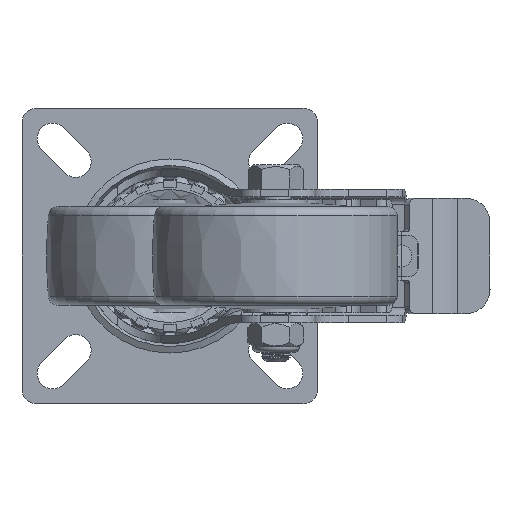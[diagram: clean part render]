
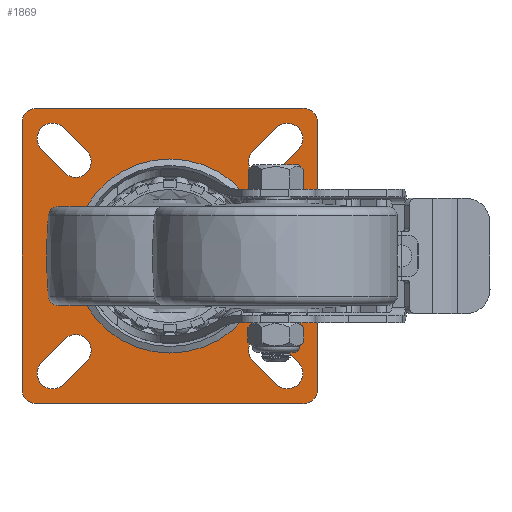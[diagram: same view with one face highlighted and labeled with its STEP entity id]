
A CAD part, front view. The second image highlights one B-rep face of the part: STEP entity #1869.
In plain terms, the highlighted planar face has unit normal (0, -1, 0).
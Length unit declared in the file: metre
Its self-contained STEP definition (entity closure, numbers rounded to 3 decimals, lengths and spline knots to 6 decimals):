
#1869=ADVANCED_FACE('',(#4483,#4484,#4485,#4486,#4487,#4488),#4489,.F.);
#4483=FACE_OUTER_BOUND('',#9127,.T.);
#4484=FACE_BOUND('',#9128,.T.);
#4485=FACE_BOUND('',#9129,.T.);
#4486=FACE_BOUND('',#9130,.T.);
#4487=FACE_BOUND('',#9131,.T.);
#4488=FACE_BOUND('',#9132,.T.);
#4489=PLANE('',#9133);
#9127=EDGE_LOOP('',(#19435,#19436,#19437,#19438,#19439,#19440,#19441,#19442));
#9128=EDGE_LOOP('',(#19443));
#9129=EDGE_LOOP('',(#19444,#19445,#19446,#19447));
#9130=EDGE_LOOP('',(#19448,#19449,#19450,#19451));
#9131=EDGE_LOOP('',(#19452,#19453,#19454,#19455));
#9132=EDGE_LOOP('',(#19456,#19457,#19458,#19459));
#9133=AXIS2_PLACEMENT_3D('',#19460,#19461,#19462);
#19435=ORIENTED_EDGE('',*,*,#24903,.F.);
#19436=ORIENTED_EDGE('',*,*,#24904,.T.);
#19437=ORIENTED_EDGE('',*,*,#24905,.F.);
#19438=ORIENTED_EDGE('',*,*,#24906,.T.);
#19439=ORIENTED_EDGE('',*,*,#24907,.F.);
#19440=ORIENTED_EDGE('',*,*,#24908,.T.);
#19441=ORIENTED_EDGE('',*,*,#24909,.F.);
#19442=ORIENTED_EDGE('',*,*,#24910,.T.);
#19443=ORIENTED_EDGE('',*,*,#24911,.F.);
#19444=ORIENTED_EDGE('',*,*,#24912,.T.);
#19445=ORIENTED_EDGE('',*,*,#24913,.T.);
#19446=ORIENTED_EDGE('',*,*,#24914,.T.);
#19447=ORIENTED_EDGE('',*,*,#24915,.T.);
#19448=ORIENTED_EDGE('',*,*,#24916,.T.);
#19449=ORIENTED_EDGE('',*,*,#24917,.T.);
#19450=ORIENTED_EDGE('',*,*,#24918,.T.);
#19451=ORIENTED_EDGE('',*,*,#24919,.T.);
#19452=ORIENTED_EDGE('',*,*,#24920,.T.);
#19453=ORIENTED_EDGE('',*,*,#24921,.T.);
#19454=ORIENTED_EDGE('',*,*,#24922,.T.);
#19455=ORIENTED_EDGE('',*,*,#24923,.T.);
#19456=ORIENTED_EDGE('',*,*,#24924,.T.);
#19457=ORIENTED_EDGE('',*,*,#24925,.T.);
#19458=ORIENTED_EDGE('',*,*,#24926,.T.);
#19459=ORIENTED_EDGE('',*,*,#24927,.T.);
#19460=CARTESIAN_POINT('',(0.0,0.0,0.0));
#19461=DIRECTION('',(-0.0,1.0,0.0));
#19462=DIRECTION('',(1.0,0.0,0.0));
#24903=EDGE_CURVE('',#30775,#30776,#30777,.T.);
#24904=EDGE_CURVE('',#30775,#30778,#30779,.T.);
#24905=EDGE_CURVE('',#30780,#30778,#30781,.T.);
#24906=EDGE_CURVE('',#30780,#30782,#30783,.T.);
#24907=EDGE_CURVE('',#30784,#30782,#30785,.T.);
#24908=EDGE_CURVE('',#30784,#30786,#30787,.T.);
#24909=EDGE_CURVE('',#30788,#30786,#30789,.T.);
#24910=EDGE_CURVE('',#30788,#30776,#30790,.T.);
#24911=EDGE_CURVE('',#30791,#30791,#30792,.T.);
#24912=EDGE_CURVE('',#30793,#30794,#30795,.T.);
#24913=EDGE_CURVE('',#30794,#30796,#30797,.T.);
#24914=EDGE_CURVE('',#30796,#30798,#30799,.T.);
#24915=EDGE_CURVE('',#30798,#30793,#30800,.T.);
#24916=EDGE_CURVE('',#30801,#30802,#30803,.T.);
#24917=EDGE_CURVE('',#30802,#30804,#30805,.T.);
#24918=EDGE_CURVE('',#30804,#30806,#30807,.T.);
#24919=EDGE_CURVE('',#30806,#30801,#30808,.T.);
#24920=EDGE_CURVE('',#30809,#30810,#30811,.T.);
#24921=EDGE_CURVE('',#30810,#30812,#30813,.T.);
#24922=EDGE_CURVE('',#30812,#30814,#30815,.T.);
#24923=EDGE_CURVE('',#30814,#30809,#30816,.T.);
#24924=EDGE_CURVE('',#30817,#30818,#30819,.T.);
#24925=EDGE_CURVE('',#30818,#30820,#30821,.T.);
#24926=EDGE_CURVE('',#30820,#30822,#30823,.T.);
#24927=EDGE_CURVE('',#30822,#30817,#30824,.T.);
#30775=VERTEX_POINT('',#42857);
#30776=VERTEX_POINT('',#42858);
#30777=LINE('',#42859,#42860);
#30778=VERTEX_POINT('',#42861);
#30779=CIRCLE('',#42862,0.003);
#30780=VERTEX_POINT('',#42863);
#30781=LINE('',#42864,#42865);
#30782=VERTEX_POINT('',#42866);
#30783=CIRCLE('',#42867,0.003);
#30784=VERTEX_POINT('',#42868);
#30785=LINE('',#42869,#42870);
#30786=VERTEX_POINT('',#42871);
#30787=CIRCLE('',#42872,0.003);
#30788=VERTEX_POINT('',#42873);
#30789=LINE('',#42874,#42875);
#30790=CIRCLE('',#42876,0.003);
#30791=VERTEX_POINT('',#42877);
#30792=CIRCLE('',#42878,0.012494);
#30793=VERTEX_POINT('',#42879);
#30794=VERTEX_POINT('',#42880);
#30795=CIRCLE('',#42881,0.00315);
#30796=VERTEX_POINT('',#42882);
#30797=LINE('',#42883,#42884);
#30798=VERTEX_POINT('',#42885);
#30799=CIRCLE('',#42886,0.00315);
#30800=LINE('',#42887,#42888);
#30801=VERTEX_POINT('',#42889);
#30802=VERTEX_POINT('',#42890);
#30803=LINE('',#42891,#42892);
#30804=VERTEX_POINT('',#42893);
#30805=CIRCLE('',#42894,0.00315);
#30806=VERTEX_POINT('',#42895);
#30807=LINE('',#42896,#42897);
#30808=CIRCLE('',#42898,0.00315);
#30809=VERTEX_POINT('',#42899);
#30810=VERTEX_POINT('',#42900);
#30811=LINE('',#42901,#42902);
#30812=VERTEX_POINT('',#42903);
#30813=CIRCLE('',#42904,0.00315);
#30814=VERTEX_POINT('',#42905);
#30815=LINE('',#42906,#42907);
#30816=CIRCLE('',#42908,0.00315);
#30817=VERTEX_POINT('',#42909);
#30818=VERTEX_POINT('',#42910);
#30819=CIRCLE('',#42911,0.00315);
#30820=VERTEX_POINT('',#42912);
#30821=LINE('',#42913,#42914);
#30822=VERTEX_POINT('',#42915);
#30823=CIRCLE('',#42916,0.00315);
#30824=LINE('',#42917,#42918);
#42857=CARTESIAN_POINT('',(0.03,0.0,0.027));
#42858=CARTESIAN_POINT('',(0.03,0.0,-0.027));
#42859=CARTESIAN_POINT('',(0.03,0.0,0.027));
#42860=VECTOR('',#48154,1.0);
#42861=CARTESIAN_POINT('',(0.027,0.0,0.03));
#42862=AXIS2_PLACEMENT_3D('',#48155,#48156,#48157);
#42863=CARTESIAN_POINT('',(-0.027,0.0,0.03));
#42864=CARTESIAN_POINT('',(-0.027,0.0,0.03));
#42865=VECTOR('',#48158,1.0);
#42866=CARTESIAN_POINT('',(-0.03,0.0,0.027));
#42867=AXIS2_PLACEMENT_3D('',#48159,#48160,#48161);
#42868=CARTESIAN_POINT('',(-0.03,0.0,-0.027));
#42869=CARTESIAN_POINT('',(-0.03,0.0,-0.027));
#42870=VECTOR('',#48162,1.0);
#42871=CARTESIAN_POINT('',(-0.027,0.0,-0.03));
#42872=AXIS2_PLACEMENT_3D('',#48163,#48164,#48165);
#42873=CARTESIAN_POINT('',(0.027,0.0,-0.03));
#42874=CARTESIAN_POINT('',(0.027,0.0,-0.03));
#42875=VECTOR('',#48166,1.0);
#42876=AXIS2_PLACEMENT_3D('',#48167,#48168,#48169);
#42877=CARTESIAN_POINT('',(0.012494,0.,0.0));
#42878=AXIS2_PLACEMENT_3D('',#48170,#48171,#48172);
#42879=CARTESIAN_POINT('',(0.021327,0.0,0.016873));
#42880=CARTESIAN_POINT('',(0.016873,0.0,0.021327));
#42881=AXIS2_PLACEMENT_3D('',#48173,#48174,#48175);
#42882=CARTESIAN_POINT('',(0.021573,0.0,0.026027));
#42883=CARTESIAN_POINT('',(0.016873,0.0,0.021327));
#42884=VECTOR('',#48176,1.0);
#42885=CARTESIAN_POINT('',(0.026027,0.0,0.021573));
#42886=AXIS2_PLACEMENT_3D('',#48177,#48178,#48179);
#42887=CARTESIAN_POINT('',(0.026027,0.0,0.021573));
#42888=VECTOR('',#48180,1.0);
#42889=CARTESIAN_POINT('',(-0.021573,0.0,0.026027));
#42890=CARTESIAN_POINT('',(-0.016873,0.0,0.021327));
#42891=CARTESIAN_POINT('',(-0.021573,0.0,0.026027));
#42892=VECTOR('',#48181,1.0);
#42893=CARTESIAN_POINT('',(-0.021327,0.0,0.016873));
#42894=AXIS2_PLACEMENT_3D('',#48182,#48183,#48184);
#42895=CARTESIAN_POINT('',(-0.026027,0.0,0.021573));
#42896=CARTESIAN_POINT('',(-0.021327,0.0,0.016873));
#42897=VECTOR('',#48185,1.0);
#42898=AXIS2_PLACEMENT_3D('',#48186,#48187,#48188);
#42899=CARTESIAN_POINT('',(0.021573,0.0,-0.026027));
#42900=CARTESIAN_POINT('',(0.016873,0.0,-0.021327));
#42901=CARTESIAN_POINT('',(0.021573,0.0,-0.026027));
#42902=VECTOR('',#48189,1.0);
#42903=CARTESIAN_POINT('',(0.021327,0.0,-0.016873));
#42904=AXIS2_PLACEMENT_3D('',#48190,#48191,#48192);
#42905=CARTESIAN_POINT('',(0.026027,0.0,-0.021573));
#42906=CARTESIAN_POINT('',(0.021327,0.0,-0.016873));
#42907=VECTOR('',#48193,1.0);
#42908=AXIS2_PLACEMENT_3D('',#48194,#48195,#48196);
#42909=CARTESIAN_POINT('',(-0.021327,0.0,-0.016873));
#42910=CARTESIAN_POINT('',(-0.016873,0.0,-0.021327));
#42911=AXIS2_PLACEMENT_3D('',#48197,#48198,#48199);
#42912=CARTESIAN_POINT('',(-0.021573,0.0,-0.026027));
#42913=CARTESIAN_POINT('',(-0.016873,0.0,-0.021327));
#42914=VECTOR('',#48200,1.0);
#42915=CARTESIAN_POINT('',(-0.026027,0.0,-0.021573));
#42916=AXIS2_PLACEMENT_3D('',#48201,#48202,#48203);
#42917=CARTESIAN_POINT('',(-0.026027,0.0,-0.021573));
#42918=VECTOR('',#48204,1.0);
#48154=DIRECTION('',(0.0,0.0,-1.0));
#48155=CARTESIAN_POINT('',(0.027,0.0,0.027));
#48156=DIRECTION('',(0.0,-1.0,0.0));
#48157=DIRECTION('',(1.0,0.0,0.0));
#48158=DIRECTION('',(1.0,0.0,0.0));
#48159=CARTESIAN_POINT('',(-0.027,0.0,0.027));
#48160=DIRECTION('',(0.0,-1.0,0.0));
#48161=DIRECTION('',(0.0,0.0,1.0));
#48162=DIRECTION('',(0.0,0.0,1.0));
#48163=CARTESIAN_POINT('',(-0.027,0.0,-0.027));
#48164=DIRECTION('',(0.0,-1.0,0.0));
#48165=DIRECTION('',(-1.0,0.0,0.0));
#48166=DIRECTION('',(-1.0,0.0,0.0));
#48167=CARTESIAN_POINT('',(0.027,0.0,-0.027));
#48168=DIRECTION('',(0.0,-1.0,0.0));
#48169=DIRECTION('',(0.0,0.0,-1.0));
#48170=CARTESIAN_POINT('',(0.0,0.,0.0));
#48171=DIRECTION('',(0.0,-1.0,0.0));
#48172=DIRECTION('',(1.0,0.0,0.0));
#48173=CARTESIAN_POINT('',(0.0191,0.0,0.0191));
#48174=DIRECTION('',(0.0,1.0,0.0));
#48175=DIRECTION('',(0.707,0.0,-0.707));
#48176=DIRECTION('',(0.707,0.0,0.707));
#48177=CARTESIAN_POINT('',(0.0238,0.0,0.0238));
#48178=DIRECTION('',(0.0,1.0,0.0));
#48179=DIRECTION('',(-0.707,0.0,0.707));
#48180=DIRECTION('',(-0.707,0.0,-0.707));
#48181=DIRECTION('',(0.707,0.0,-0.707));
#48182=CARTESIAN_POINT('',(-0.0191,0.0,0.0191));
#48183=DIRECTION('',(-0.0,1.0,0.0));
#48184=DIRECTION('',(0.707,0.0,0.707));
#48185=DIRECTION('',(-0.707,0.0,0.707));
#48186=CARTESIAN_POINT('',(-0.0238,0.0,0.0238));
#48187=DIRECTION('',(0.0,1.0,0.0));
#48188=DIRECTION('',(-0.707,0.0,-0.707));
#48189=DIRECTION('',(-0.707,0.0,0.707));
#48190=CARTESIAN_POINT('',(0.0191,0.0,-0.0191));
#48191=DIRECTION('',(0.0,1.0,0.0));
#48192=DIRECTION('',(-0.707,0.0,-0.707));
#48193=DIRECTION('',(0.707,0.0,-0.707));
#48194=CARTESIAN_POINT('',(0.0238,0.0,-0.0238));
#48195=DIRECTION('',(-0.0,1.0,0.0));
#48196=DIRECTION('',(0.707,0.0,0.707));
#48197=CARTESIAN_POINT('',(-0.0191,0.0,-0.0191));
#48198=DIRECTION('',(0.0,1.0,0.0));
#48199=DIRECTION('',(-0.707,0.0,0.707));
#48200=DIRECTION('',(-0.707,0.0,-0.707));
#48201=CARTESIAN_POINT('',(-0.0238,0.0,-0.0238));
#48202=DIRECTION('',(0.0,1.0,0.0));
#48203=DIRECTION('',(0.707,0.0,-0.707));
#48204=DIRECTION('',(0.707,0.0,0.707));
